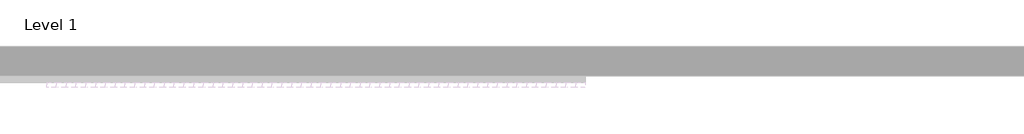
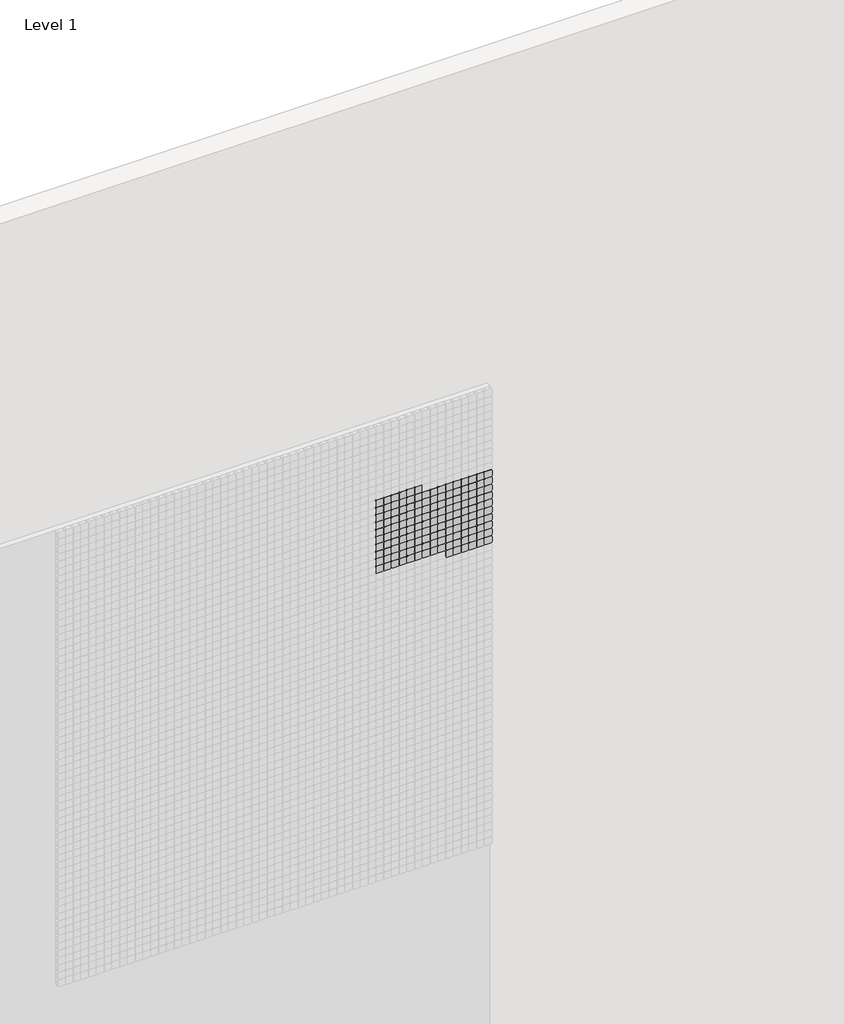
# One storey, part 63 of 71: 147 proxies.
"""IFC4 building model written with IfcOpenShell, lengths in millimetres."""

from ifc_helpers import new_model, si_unit, origin, place, context, project, spatial, transform, mapped, element, save
from components import generic_models_afde289c

model = new_model("IFC4")

# Units and contexts
model_context = context("Model", 3, world=origin())
ifc_project = project(units=[si_unit("LENGTHUNIT", "METRE", prefix="MILLI")], contexts=[model_context])

# Site, building, storey
site = spatial("IfcSite", under=ifc_project)
building = spatial("IfcBuilding", under=site)
storey = spatial("IfcBuildingStorey", under=building, Name="Level 1", Elevation=0.0)

# Proxies
placement = place(None, origin())
generic_models_shape = generic_models_afde289c(model_context)
element("IfcBuildingElementProxy", 1, Name="Pixel_M : Pixel_M", ObjectType="Pixel_M : Pixel_M", at=placement, inside=storey, context=model_context, shape_type="MappedRepresentation", body=[
    mapped(generic_models_shape, transform((9262.4280941, -75.0, 5466.3566215), x_axis=(1.0, 0.0, 0.0), y_axis=(0.0, 0.0, 1.0), z_axis=(0.0, -1.0, 0.0))),
])
element("IfcBuildingElementProxy", 2, Name="Pixel_M : Pixel_M", ObjectType="Pixel_M : Pixel_M", at=placement, inside=storey, context=model_context, shape_type="MappedRepresentation", body=[
    mapped(generic_models_shape, transform((9212.4280941, -75.0, 5466.3566215), x_axis=(1.0, 0.0, 0.0), y_axis=(0.0, 0.0, 1.0), z_axis=(0.0, -1.0, 0.0))),
])
element("IfcBuildingElementProxy", 3, Name="Pixel_M : Pixel_M", ObjectType="Pixel_M : Pixel_M", at=placement, inside=storey, context=model_context, shape_type="MappedRepresentation", body=[
    mapped(generic_models_shape, transform((9162.4280941, -75.0, 5466.3566215), x_axis=(1.0, 0.0, 0.0), y_axis=(0.0, 0.0, 1.0), z_axis=(0.0, -1.0, 0.0))),
])
element("IfcBuildingElementProxy", 4, Name="Pixel_M : Pixel_M", ObjectType="Pixel_M : Pixel_M", at=placement, inside=storey, context=model_context, shape_type="MappedRepresentation", body=[
    mapped(generic_models_shape, transform((9112.4280941, -75.0, 5466.3566215), x_axis=(1.0, 0.0, 0.0), y_axis=(0.0, 0.0, 1.0), z_axis=(0.0, -1.0, 0.0))),
])
element("IfcBuildingElementProxy", 5, Name="Pixel_M : Pixel_M", ObjectType="Pixel_M : Pixel_M", at=placement, inside=storey, context=model_context, shape_type="MappedRepresentation", body=[
    mapped(generic_models_shape, transform((9062.4280941, -75.0, 5466.3566215), x_axis=(1.0, 0.0, 0.0), y_axis=(0.0, 0.0, 1.0), z_axis=(0.0, -1.0, 0.0))),
])
element("IfcBuildingElementProxy", 6, Name="Pixel_M : Pixel_M", ObjectType="Pixel_M : Pixel_M", at=placement, inside=storey, context=model_context, shape_type="MappedRepresentation", body=[
    mapped(generic_models_shape, transform((9012.4280941, -75.0, 5466.3566215), x_axis=(1.0, 0.0, 0.0), y_axis=(0.0, 0.0, 1.0), z_axis=(0.0, -1.0, 0.0))),
])
element("IfcBuildingElementProxy", 7, Name="Pixel_M : Pixel_M", ObjectType="Pixel_M : Pixel_M", at=placement, inside=storey, context=model_context, shape_type="MappedRepresentation", body=[
    mapped(generic_models_shape, transform((9712.4280941, -75.0, 5416.3566215), x_axis=(1.0, 0.0, 0.0), y_axis=(0.0, 0.0, 1.0), z_axis=(0.0, -1.0, 0.0))),
])
element("IfcBuildingElementProxy", 8, Name="Pixel_M : Pixel_M", ObjectType="Pixel_M : Pixel_M", at=placement, inside=storey, context=model_context, shape_type="MappedRepresentation", body=[
    mapped(generic_models_shape, transform((9662.4280941, -75.0, 5416.3566215), x_axis=(1.0, 0.0, 0.0), y_axis=(0.0, 0.0, 1.0), z_axis=(0.0, -1.0, 0.0))),
])
element("IfcBuildingElementProxy", 9, Name="Pixel_M : Pixel_M", ObjectType="Pixel_M : Pixel_M", at=placement, inside=storey, context=model_context, shape_type="MappedRepresentation", body=[
    mapped(generic_models_shape, transform((9612.4280941, -75.0, 5416.3566215), x_axis=(1.0, 0.0, 0.0), y_axis=(0.0, 0.0, 1.0), z_axis=(0.0, -1.0, 0.0))),
])
element("IfcBuildingElementProxy", 10, Name="Pixel_M : Pixel_M", ObjectType="Pixel_M : Pixel_M", at=placement, inside=storey, context=model_context, shape_type="MappedRepresentation", body=[
    mapped(generic_models_shape, transform((9562.4280941, -75.0, 5416.3566215), x_axis=(1.0, 0.0, 0.0), y_axis=(0.0, 0.0, 1.0), z_axis=(0.0, -1.0, 0.0))),
])
element("IfcBuildingElementProxy", 11, Name="Pixel_M : Pixel_M", ObjectType="Pixel_M : Pixel_M", at=placement, inside=storey, context=model_context, shape_type="MappedRepresentation", body=[
    mapped(generic_models_shape, transform((9512.4280941, -75.0, 5416.3566215), x_axis=(1.0, 0.0, 0.0), y_axis=(0.0, 0.0, 1.0), z_axis=(0.0, -1.0, 0.0))),
])
element("IfcBuildingElementProxy", 12, Name="Pixel_M : Pixel_M", ObjectType="Pixel_M : Pixel_M", at=placement, inside=storey, context=model_context, shape_type="MappedRepresentation", body=[
    mapped(generic_models_shape, transform((9462.4280941, -75.0, 5416.3566215), x_axis=(1.0, 0.0, 0.0), y_axis=(0.0, 0.0, 1.0), z_axis=(0.0, -1.0, 0.0))),
])
element("IfcBuildingElementProxy", 13, Name="Pixel_M : Pixel_M", ObjectType="Pixel_M : Pixel_M", at=placement, inside=storey, context=model_context, shape_type="MappedRepresentation", body=[
    mapped(generic_models_shape, transform((9412.4280941, -75.0, 5416.3566215), x_axis=(1.0, 0.0, 0.0), y_axis=(0.0, 0.0, 1.0), z_axis=(0.0, -1.0, 0.0))),
])
element("IfcBuildingElementProxy", 14, Name="Pixel_M : Pixel_M", ObjectType="Pixel_M : Pixel_M", at=placement, inside=storey, context=model_context, shape_type="MappedRepresentation", body=[
    mapped(generic_models_shape, transform((9362.4280941, -75.0, 5416.3566215), x_axis=(1.0, 0.0, 0.0), y_axis=(0.0, 0.0, 1.0), z_axis=(0.0, -1.0, 0.0))),
])
element("IfcBuildingElementProxy", 15, Name="Pixel_M : Pixel_M", ObjectType="Pixel_M : Pixel_M", at=placement, inside=storey, context=model_context, shape_type="MappedRepresentation", body=[
    mapped(generic_models_shape, transform((9312.4280941, -75.0, 5416.3566215), x_axis=(1.0, 0.0, 0.0), y_axis=(0.0, 0.0, 1.0), z_axis=(0.0, -1.0, 0.0))),
])
element("IfcBuildingElementProxy", 16, Name="Pixel_M : Pixel_M", ObjectType="Pixel_M : Pixel_M", at=placement, inside=storey, context=model_context, shape_type="MappedRepresentation", body=[
    mapped(generic_models_shape, transform((9262.4280941, -75.0, 5416.3566215), x_axis=(1.0, 0.0, 0.0), y_axis=(0.0, 0.0, 1.0), z_axis=(0.0, -1.0, 0.0))),
])
element("IfcBuildingElementProxy", 17, Name="Pixel_M : Pixel_M", ObjectType="Pixel_M : Pixel_M", at=placement, inside=storey, context=model_context, shape_type="MappedRepresentation", body=[
    mapped(generic_models_shape, transform((9212.4280941, -75.0, 5416.3566215), x_axis=(1.0, 0.0, 0.0), y_axis=(0.0, 0.0, 1.0), z_axis=(0.0, -1.0, 0.0))),
])
element("IfcBuildingElementProxy", 18, Name="Pixel_M : Pixel_M", ObjectType="Pixel_M : Pixel_M", at=placement, inside=storey, context=model_context, shape_type="MappedRepresentation", body=[
    mapped(generic_models_shape, transform((9162.4280941, -75.0, 5416.3566215), x_axis=(1.0, 0.0, 0.0), y_axis=(0.0, 0.0, 1.0), z_axis=(0.0, -1.0, 0.0))),
])
element("IfcBuildingElementProxy", 19, Name="Pixel_M : Pixel_M", ObjectType="Pixel_M : Pixel_M", at=placement, inside=storey, context=model_context, shape_type="MappedRepresentation", body=[
    mapped(generic_models_shape, transform((9112.4280941, -75.0, 5416.3566215), x_axis=(1.0, 0.0, 0.0), y_axis=(0.0, 0.0, 1.0), z_axis=(0.0, -1.0, 0.0))),
])
element("IfcBuildingElementProxy", 20, Name="Pixel_M : Pixel_M", ObjectType="Pixel_M : Pixel_M", at=placement, inside=storey, context=model_context, shape_type="MappedRepresentation", body=[
    mapped(generic_models_shape, transform((9062.4280941, -75.0, 5416.3566215), x_axis=(1.0, 0.0, 0.0), y_axis=(0.0, 0.0, 1.0), z_axis=(0.0, -1.0, 0.0))),
])
element("IfcBuildingElementProxy", 21, Name="Pixel_M : Pixel_M", ObjectType="Pixel_M : Pixel_M", at=placement, inside=storey, context=model_context, shape_type="MappedRepresentation", body=[
    mapped(generic_models_shape, transform((9012.4280941, -75.0, 5416.3566215), x_axis=(1.0, 0.0, 0.0), y_axis=(0.0, 0.0, 1.0), z_axis=(0.0, -1.0, 0.0))),
])
element("IfcBuildingElementProxy", 22, Name="Pixel_M : Pixel_M", ObjectType="Pixel_M : Pixel_M", at=placement, inside=storey, context=model_context, shape_type="MappedRepresentation", body=[
    mapped(generic_models_shape, transform((9712.4280941, -75.0, 5366.3566215), x_axis=(1.0, 0.0, 0.0), y_axis=(0.0, 0.0, 1.0), z_axis=(0.0, -1.0, 0.0))),
])
element("IfcBuildingElementProxy", 23, Name="Pixel_M : Pixel_M", ObjectType="Pixel_M : Pixel_M", at=placement, inside=storey, context=model_context, shape_type="MappedRepresentation", body=[
    mapped(generic_models_shape, transform((9662.4280941, -75.0, 5366.3566215), x_axis=(1.0, 0.0, 0.0), y_axis=(0.0, 0.0, 1.0), z_axis=(0.0, -1.0, 0.0))),
])
element("IfcBuildingElementProxy", 24, Name="Pixel_M : Pixel_M", ObjectType="Pixel_M : Pixel_M", at=placement, inside=storey, context=model_context, shape_type="MappedRepresentation", body=[
    mapped(generic_models_shape, transform((9612.4280941, -75.0, 5366.3566215), x_axis=(1.0, 0.0, 0.0), y_axis=(0.0, 0.0, 1.0), z_axis=(0.0, -1.0, 0.0))),
])
element("IfcBuildingElementProxy", 25, Name="Pixel_M : Pixel_M", ObjectType="Pixel_M : Pixel_M", at=placement, inside=storey, context=model_context, shape_type="MappedRepresentation", body=[
    mapped(generic_models_shape, transform((9562.4280941, -75.0, 5366.3566215), x_axis=(1.0, 0.0, 0.0), y_axis=(0.0, 0.0, 1.0), z_axis=(0.0, -1.0, 0.0))),
])
element("IfcBuildingElementProxy", 26, Name="Pixel_M : Pixel_M", ObjectType="Pixel_M : Pixel_M", at=placement, inside=storey, context=model_context, shape_type="MappedRepresentation", body=[
    mapped(generic_models_shape, transform((9512.4280941, -75.0, 5366.3566215), x_axis=(1.0, 0.0, 0.0), y_axis=(0.0, 0.0, 1.0), z_axis=(0.0, -1.0, 0.0))),
])
element("IfcBuildingElementProxy", 27, Name="Pixel_M : Pixel_M", ObjectType="Pixel_M : Pixel_M", at=placement, inside=storey, context=model_context, shape_type="MappedRepresentation", body=[
    mapped(generic_models_shape, transform((9462.4280941, -75.0, 5366.3566215), x_axis=(1.0, 0.0, 0.0), y_axis=(0.0, 0.0, 1.0), z_axis=(0.0, -1.0, 0.0))),
])
element("IfcBuildingElementProxy", 28, Name="Pixel_M : Pixel_M", ObjectType="Pixel_M : Pixel_M", at=placement, inside=storey, context=model_context, shape_type="MappedRepresentation", body=[
    mapped(generic_models_shape, transform((9412.4280941, -75.0, 5366.3566215), x_axis=(1.0, 0.0, 0.0), y_axis=(0.0, 0.0, 1.0), z_axis=(0.0, -1.0, 0.0))),
])
element("IfcBuildingElementProxy", 29, Name="Pixel_M : Pixel_M", ObjectType="Pixel_M : Pixel_M", at=placement, inside=storey, context=model_context, shape_type="MappedRepresentation", body=[
    mapped(generic_models_shape, transform((9362.4280941, -75.0, 5366.3566215), x_axis=(1.0, 0.0, 0.0), y_axis=(0.0, 0.0, 1.0), z_axis=(0.0, -1.0, 0.0))),
])
element("IfcBuildingElementProxy", 30, Name="Pixel_M : Pixel_M", ObjectType="Pixel_M : Pixel_M", at=placement, inside=storey, context=model_context, shape_type="MappedRepresentation", body=[
    mapped(generic_models_shape, transform((9312.4280941, -75.0, 5366.3566215), x_axis=(1.0, 0.0, 0.0), y_axis=(0.0, 0.0, 1.0), z_axis=(0.0, -1.0, 0.0))),
])
element("IfcBuildingElementProxy", 31, Name="Pixel_M : Pixel_M", ObjectType="Pixel_M : Pixel_M", at=placement, inside=storey, context=model_context, shape_type="MappedRepresentation", body=[
    mapped(generic_models_shape, transform((9262.4280941, -75.0, 5366.3566215), x_axis=(1.0, 0.0, 0.0), y_axis=(0.0, 0.0, 1.0), z_axis=(0.0, -1.0, 0.0))),
])
element("IfcBuildingElementProxy", 32, Name="Pixel_M : Pixel_M", ObjectType="Pixel_M : Pixel_M", at=placement, inside=storey, context=model_context, shape_type="MappedRepresentation", body=[
    mapped(generic_models_shape, transform((9212.4280941, -75.0, 5366.3566215), x_axis=(1.0, 0.0, 0.0), y_axis=(0.0, 0.0, 1.0), z_axis=(0.0, -1.0, 0.0))),
])
element("IfcBuildingElementProxy", 33, Name="Pixel_M : Pixel_M", ObjectType="Pixel_M : Pixel_M", at=placement, inside=storey, context=model_context, shape_type="MappedRepresentation", body=[
    mapped(generic_models_shape, transform((9162.4280941, -75.0, 5366.3566215), x_axis=(1.0, 0.0, 0.0), y_axis=(0.0, 0.0, 1.0), z_axis=(0.0, -1.0, 0.0))),
])
element("IfcBuildingElementProxy", 34, Name="Pixel_M : Pixel_M", ObjectType="Pixel_M : Pixel_M", at=placement, inside=storey, context=model_context, shape_type="MappedRepresentation", body=[
    mapped(generic_models_shape, transform((9112.4280941, -75.0, 5366.3566215), x_axis=(1.0, 0.0, 0.0), y_axis=(0.0, 0.0, 1.0), z_axis=(0.0, -1.0, 0.0))),
])
element("IfcBuildingElementProxy", 35, Name="Pixel_M : Pixel_M", ObjectType="Pixel_M : Pixel_M", at=placement, inside=storey, context=model_context, shape_type="MappedRepresentation", body=[
    mapped(generic_models_shape, transform((9062.4280941, -75.0, 5366.3566215), x_axis=(1.0, 0.0, 0.0), y_axis=(0.0, 0.0, 1.0), z_axis=(0.0, -1.0, 0.0))),
])
element("IfcBuildingElementProxy", 36, Name="Pixel_M : Pixel_M", ObjectType="Pixel_M : Pixel_M", at=placement, inside=storey, context=model_context, shape_type="MappedRepresentation", body=[
    mapped(generic_models_shape, transform((9012.4280941, -75.0, 5366.3566215), x_axis=(1.0, 0.0, 0.0), y_axis=(0.0, 0.0, 1.0), z_axis=(0.0, -1.0, 0.0))),
])
element("IfcBuildingElementProxy", 37, Name="Pixel_M : Pixel_M", ObjectType="Pixel_M : Pixel_M", at=placement, inside=storey, context=model_context, shape_type="MappedRepresentation", body=[
    mapped(generic_models_shape, transform((9712.4280941, -75.0, 5316.3566215), x_axis=(1.0, 0.0, 0.0), y_axis=(0.0, 0.0, 1.0), z_axis=(0.0, -1.0, 0.0))),
])
element("IfcBuildingElementProxy", 38, Name="Pixel_M : Pixel_M", ObjectType="Pixel_M : Pixel_M", at=placement, inside=storey, context=model_context, shape_type="MappedRepresentation", body=[
    mapped(generic_models_shape, transform((9662.4280941, -75.0, 5316.3566215), x_axis=(1.0, 0.0, 0.0), y_axis=(0.0, 0.0, 1.0), z_axis=(0.0, -1.0, 0.0))),
])
element("IfcBuildingElementProxy", 39, Name="Pixel_M : Pixel_M", ObjectType="Pixel_M : Pixel_M", at=placement, inside=storey, context=model_context, shape_type="MappedRepresentation", body=[
    mapped(generic_models_shape, transform((9612.4280941, -75.0, 5316.3566215), x_axis=(1.0, 0.0, 0.0), y_axis=(0.0, 0.0, 1.0), z_axis=(0.0, -1.0, 0.0))),
])
element("IfcBuildingElementProxy", 40, Name="Pixel_M : Pixel_M", ObjectType="Pixel_M : Pixel_M", at=placement, inside=storey, context=model_context, shape_type="MappedRepresentation", body=[
    mapped(generic_models_shape, transform((9562.4280941, -75.0, 5316.3566215), x_axis=(1.0, 0.0, 0.0), y_axis=(0.0, 0.0, 1.0), z_axis=(0.0, -1.0, 0.0))),
])
element("IfcBuildingElementProxy", 41, Name="Pixel_M : Pixel_M", ObjectType="Pixel_M : Pixel_M", at=placement, inside=storey, context=model_context, shape_type="MappedRepresentation", body=[
    mapped(generic_models_shape, transform((9512.4280941, -75.0, 5316.3566215), x_axis=(1.0, 0.0, 0.0), y_axis=(0.0, 0.0, 1.0), z_axis=(0.0, -1.0, 0.0))),
])
element("IfcBuildingElementProxy", 42, Name="Pixel_M : Pixel_M", ObjectType="Pixel_M : Pixel_M", at=placement, inside=storey, context=model_context, shape_type="MappedRepresentation", body=[
    mapped(generic_models_shape, transform((9462.4280941, -75.0, 5316.3566215), x_axis=(1.0, 0.0, 0.0), y_axis=(0.0, 0.0, 1.0), z_axis=(0.0, -1.0, 0.0))),
])
element("IfcBuildingElementProxy", 43, Name="Pixel_M : Pixel_M", ObjectType="Pixel_M : Pixel_M", at=placement, inside=storey, context=model_context, shape_type="MappedRepresentation", body=[
    mapped(generic_models_shape, transform((9412.4280941, -75.0, 5316.3566215), x_axis=(1.0, 0.0, 0.0), y_axis=(0.0, 0.0, 1.0), z_axis=(0.0, -1.0, 0.0))),
])
element("IfcBuildingElementProxy", 44, Name="Pixel_M : Pixel_M", ObjectType="Pixel_M : Pixel_M", at=placement, inside=storey, context=model_context, shape_type="MappedRepresentation", body=[
    mapped(generic_models_shape, transform((9362.4280941, -75.0, 5316.3566215), x_axis=(1.0, 0.0, 0.0), y_axis=(0.0, 0.0, 1.0), z_axis=(0.0, -1.0, 0.0))),
])
element("IfcBuildingElementProxy", 45, Name="Pixel_M : Pixel_M", ObjectType="Pixel_M : Pixel_M", at=placement, inside=storey, context=model_context, shape_type="MappedRepresentation", body=[
    mapped(generic_models_shape, transform((9312.4280941, -75.0, 5316.3566215), x_axis=(1.0, 0.0, 0.0), y_axis=(0.0, 0.0, 1.0), z_axis=(0.0, -1.0, 0.0))),
])
element("IfcBuildingElementProxy", 46, Name="Pixel_M : Pixel_M", ObjectType="Pixel_M : Pixel_M", at=placement, inside=storey, context=model_context, shape_type="MappedRepresentation", body=[
    mapped(generic_models_shape, transform((9262.4280941, -75.0, 5316.3566215), x_axis=(1.0, 0.0, 0.0), y_axis=(0.0, 0.0, 1.0), z_axis=(0.0, -1.0, 0.0))),
])
element("IfcBuildingElementProxy", 47, Name="Pixel_M : Pixel_M", ObjectType="Pixel_M : Pixel_M", at=placement, inside=storey, context=model_context, shape_type="MappedRepresentation", body=[
    mapped(generic_models_shape, transform((9212.4280941, -75.0, 5316.3566215), x_axis=(1.0, 0.0, 0.0), y_axis=(0.0, 0.0, 1.0), z_axis=(0.0, -1.0, 0.0))),
])
element("IfcBuildingElementProxy", 48, Name="Pixel_M : Pixel_M", ObjectType="Pixel_M : Pixel_M", at=placement, inside=storey, context=model_context, shape_type="MappedRepresentation", body=[
    mapped(generic_models_shape, transform((9162.4280941, -75.0, 5316.3566215), x_axis=(1.0, 0.0, 0.0), y_axis=(0.0, 0.0, 1.0), z_axis=(0.0, -1.0, 0.0))),
])
element("IfcBuildingElementProxy", 49, Name="Pixel_M : Pixel_M", ObjectType="Pixel_M : Pixel_M", at=placement, inside=storey, context=model_context, shape_type="MappedRepresentation", body=[
    mapped(generic_models_shape, transform((9112.4280941, -75.0, 5316.3566215), x_axis=(1.0, 0.0, 0.0), y_axis=(0.0, 0.0, 1.0), z_axis=(0.0, -1.0, 0.0))),
])
element("IfcBuildingElementProxy", 50, Name="Pixel_M : Pixel_M", ObjectType="Pixel_M : Pixel_M", at=placement, inside=storey, context=model_context, shape_type="MappedRepresentation", body=[
    mapped(generic_models_shape, transform((9062.4280941, -75.0, 5316.3566215), x_axis=(1.0, 0.0, 0.0), y_axis=(0.0, 0.0, 1.0), z_axis=(0.0, -1.0, 0.0))),
])
element("IfcBuildingElementProxy", 51, Name="Pixel_M : Pixel_M", ObjectType="Pixel_M : Pixel_M", at=placement, inside=storey, context=model_context, shape_type="MappedRepresentation", body=[
    mapped(generic_models_shape, transform((9012.4280941, -75.0, 5316.3566215), x_axis=(1.0, 0.0, 0.0), y_axis=(0.0, 0.0, 1.0), z_axis=(0.0, -1.0, 0.0))),
])
element("IfcBuildingElementProxy", 52, Name="Pixel_M : Pixel_M", ObjectType="Pixel_M : Pixel_M", at=placement, inside=storey, context=model_context, shape_type="MappedRepresentation", body=[
    mapped(generic_models_shape, transform((9712.4280941, -75.0, 5266.3566215), x_axis=(1.0, 0.0, 0.0), y_axis=(0.0, 0.0, 1.0), z_axis=(0.0, -1.0, 0.0))),
])
element("IfcBuildingElementProxy", 53, Name="Pixel_M : Pixel_M", ObjectType="Pixel_M : Pixel_M", at=placement, inside=storey, context=model_context, shape_type="MappedRepresentation", body=[
    mapped(generic_models_shape, transform((9662.4280941, -75.0, 5266.3566215), x_axis=(1.0, 0.0, 0.0), y_axis=(0.0, 0.0, 1.0), z_axis=(0.0, -1.0, 0.0))),
])
element("IfcBuildingElementProxy", 54, Name="Pixel_M : Pixel_M", ObjectType="Pixel_M : Pixel_M", at=placement, inside=storey, context=model_context, shape_type="MappedRepresentation", body=[
    mapped(generic_models_shape, transform((9612.4280941, -75.0, 5266.3566215), x_axis=(1.0, 0.0, 0.0), y_axis=(0.0, 0.0, 1.0), z_axis=(0.0, -1.0, 0.0))),
])
element("IfcBuildingElementProxy", 55, Name="Pixel_M : Pixel_M", ObjectType="Pixel_M : Pixel_M", at=placement, inside=storey, context=model_context, shape_type="MappedRepresentation", body=[
    mapped(generic_models_shape, transform((9562.4280941, -75.0, 5266.3566215), x_axis=(1.0, 0.0, 0.0), y_axis=(0.0, 0.0, 1.0), z_axis=(0.0, -1.0, 0.0))),
])
element("IfcBuildingElementProxy", 56, Name="Pixel_M : Pixel_M", ObjectType="Pixel_M : Pixel_M", at=placement, inside=storey, context=model_context, shape_type="MappedRepresentation", body=[
    mapped(generic_models_shape, transform((9512.4280941, -75.0, 5266.3566215), x_axis=(1.0, 0.0, 0.0), y_axis=(0.0, 0.0, 1.0), z_axis=(0.0, -1.0, 0.0))),
])
element("IfcBuildingElementProxy", 57, Name="Pixel_M : Pixel_M", ObjectType="Pixel_M : Pixel_M", at=placement, inside=storey, context=model_context, shape_type="MappedRepresentation", body=[
    mapped(generic_models_shape, transform((9462.4280941, -75.0, 5266.3566215), x_axis=(1.0, 0.0, 0.0), y_axis=(0.0, 0.0, 1.0), z_axis=(0.0, -1.0, 0.0))),
])
element("IfcBuildingElementProxy", 58, Name="Pixel_M : Pixel_M", ObjectType="Pixel_M : Pixel_M", at=placement, inside=storey, context=model_context, shape_type="MappedRepresentation", body=[
    mapped(generic_models_shape, transform((9412.4280941, -75.0, 5266.3566215), x_axis=(1.0, 0.0, 0.0), y_axis=(0.0, 0.0, 1.0), z_axis=(0.0, -1.0, 0.0))),
])
element("IfcBuildingElementProxy", 59, Name="Pixel_M : Pixel_M", ObjectType="Pixel_M : Pixel_M", at=placement, inside=storey, context=model_context, shape_type="MappedRepresentation", body=[
    mapped(generic_models_shape, transform((9362.4280941, -75.0, 5266.3566215), x_axis=(1.0, 0.0, 0.0), y_axis=(0.0, 0.0, 1.0), z_axis=(0.0, -1.0, 0.0))),
])
element("IfcBuildingElementProxy", 60, Name="Pixel_M : Pixel_M", ObjectType="Pixel_M : Pixel_M", at=placement, inside=storey, context=model_context, shape_type="MappedRepresentation", body=[
    mapped(generic_models_shape, transform((9312.4280941, -75.0, 5266.3566215), x_axis=(1.0, 0.0, 0.0), y_axis=(0.0, 0.0, 1.0), z_axis=(0.0, -1.0, 0.0))),
])
element("IfcBuildingElementProxy", 61, Name="Pixel_M : Pixel_M", ObjectType="Pixel_M : Pixel_M", at=placement, inside=storey, context=model_context, shape_type="MappedRepresentation", body=[
    mapped(generic_models_shape, transform((9262.4280941, -75.0, 5266.3566215), x_axis=(1.0, 0.0, 0.0), y_axis=(0.0, 0.0, 1.0), z_axis=(0.0, -1.0, 0.0))),
])
element("IfcBuildingElementProxy", 62, Name="Pixel_M : Pixel_M", ObjectType="Pixel_M : Pixel_M", at=placement, inside=storey, context=model_context, shape_type="MappedRepresentation", body=[
    mapped(generic_models_shape, transform((9212.4280941, -75.0, 5266.3566215), x_axis=(1.0, 0.0, 0.0), y_axis=(0.0, 0.0, 1.0), z_axis=(0.0, -1.0, 0.0))),
])
element("IfcBuildingElementProxy", 63, Name="Pixel_M : Pixel_M", ObjectType="Pixel_M : Pixel_M", at=placement, inside=storey, context=model_context, shape_type="MappedRepresentation", body=[
    mapped(generic_models_shape, transform((9162.4280941, -75.0, 5266.3566215), x_axis=(1.0, 0.0, 0.0), y_axis=(0.0, 0.0, 1.0), z_axis=(0.0, -1.0, 0.0))),
])
element("IfcBuildingElementProxy", 64, Name="Pixel_M : Pixel_M", ObjectType="Pixel_M : Pixel_M", at=placement, inside=storey, context=model_context, shape_type="MappedRepresentation", body=[
    mapped(generic_models_shape, transform((9112.4280941, -75.0, 5266.3566215), x_axis=(1.0, 0.0, 0.0), y_axis=(0.0, 0.0, 1.0), z_axis=(0.0, -1.0, 0.0))),
])
element("IfcBuildingElementProxy", 65, Name="Pixel_M : Pixel_M", ObjectType="Pixel_M : Pixel_M", at=placement, inside=storey, context=model_context, shape_type="MappedRepresentation", body=[
    mapped(generic_models_shape, transform((9062.4280941, -75.0, 5266.3566215), x_axis=(1.0, 0.0, 0.0), y_axis=(0.0, 0.0, 1.0), z_axis=(0.0, -1.0, 0.0))),
])
element("IfcBuildingElementProxy", 66, Name="Pixel_M : Pixel_M", ObjectType="Pixel_M : Pixel_M", at=placement, inside=storey, context=model_context, shape_type="MappedRepresentation", body=[
    mapped(generic_models_shape, transform((9012.4280941, -75.0, 5266.3566215), x_axis=(1.0, 0.0, 0.0), y_axis=(0.0, 0.0, 1.0), z_axis=(0.0, -1.0, 0.0))),
])
element("IfcBuildingElementProxy", 67, Name="Pixel_M : Pixel_M", ObjectType="Pixel_M : Pixel_M", at=placement, inside=storey, context=model_context, shape_type="MappedRepresentation", body=[
    mapped(generic_models_shape, transform((9712.4280941, -75.0, 5216.3566215), x_axis=(1.0, 0.0, 0.0), y_axis=(0.0, 0.0, 1.0), z_axis=(0.0, -1.0, 0.0))),
])
element("IfcBuildingElementProxy", 68, Name="Pixel_M : Pixel_M", ObjectType="Pixel_M : Pixel_M", at=placement, inside=storey, context=model_context, shape_type="MappedRepresentation", body=[
    mapped(generic_models_shape, transform((9662.4280941, -75.0, 5216.3566215), x_axis=(1.0, 0.0, 0.0), y_axis=(0.0, 0.0, 1.0), z_axis=(0.0, -1.0, 0.0))),
])
element("IfcBuildingElementProxy", 69, Name="Pixel_M : Pixel_M", ObjectType="Pixel_M : Pixel_M", at=placement, inside=storey, context=model_context, shape_type="MappedRepresentation", body=[
    mapped(generic_models_shape, transform((9612.4280941, -75.0, 5216.3566215), x_axis=(1.0, 0.0, 0.0), y_axis=(0.0, 0.0, 1.0), z_axis=(0.0, -1.0, 0.0))),
])
element("IfcBuildingElementProxy", 70, Name="Pixel_M : Pixel_M", ObjectType="Pixel_M : Pixel_M", at=placement, inside=storey, context=model_context, shape_type="MappedRepresentation", body=[
    mapped(generic_models_shape, transform((9562.4280941, -75.0, 5216.3566215), x_axis=(1.0, 0.0, 0.0), y_axis=(0.0, 0.0, 1.0), z_axis=(0.0, -1.0, 0.0))),
])
element("IfcBuildingElementProxy", 71, Name="Pixel_M : Pixel_M", ObjectType="Pixel_M : Pixel_M", at=placement, inside=storey, context=model_context, shape_type="MappedRepresentation", body=[
    mapped(generic_models_shape, transform((9512.4280941, -75.0, 5216.3566215), x_axis=(1.0, 0.0, 0.0), y_axis=(0.0, 0.0, 1.0), z_axis=(0.0, -1.0, 0.0))),
])
element("IfcBuildingElementProxy", 72, Name="Pixel_M : Pixel_M", ObjectType="Pixel_M : Pixel_M", at=placement, inside=storey, context=model_context, shape_type="MappedRepresentation", body=[
    mapped(generic_models_shape, transform((9462.4280941, -75.0, 5216.3566215), x_axis=(1.0, 0.0, 0.0), y_axis=(0.0, 0.0, 1.0), z_axis=(0.0, -1.0, 0.0))),
])
element("IfcBuildingElementProxy", 73, Name="Pixel_M : Pixel_M", ObjectType="Pixel_M : Pixel_M", at=placement, inside=storey, context=model_context, shape_type="MappedRepresentation", body=[
    mapped(generic_models_shape, transform((9412.4280941, -75.0, 5216.3566215), x_axis=(1.0, 0.0, 0.0), y_axis=(0.0, 0.0, 1.0), z_axis=(0.0, -1.0, 0.0))),
])
element("IfcBuildingElementProxy", 74, Name="Pixel_M : Pixel_M", ObjectType="Pixel_M : Pixel_M", at=placement, inside=storey, context=model_context, shape_type="MappedRepresentation", body=[
    mapped(generic_models_shape, transform((9362.4280941, -75.0, 5216.3566215), x_axis=(1.0, 0.0, 0.0), y_axis=(0.0, 0.0, 1.0), z_axis=(0.0, -1.0, 0.0))),
])
element("IfcBuildingElementProxy", 75, Name="Pixel_M : Pixel_M", ObjectType="Pixel_M : Pixel_M", at=placement, inside=storey, context=model_context, shape_type="MappedRepresentation", body=[
    mapped(generic_models_shape, transform((9312.4280941, -75.0, 5216.3566215), x_axis=(1.0, 0.0, 0.0), y_axis=(0.0, 0.0, 1.0), z_axis=(0.0, -1.0, 0.0))),
])
element("IfcBuildingElementProxy", 76, Name="Pixel_M : Pixel_M", ObjectType="Pixel_M : Pixel_M", at=placement, inside=storey, context=model_context, shape_type="MappedRepresentation", body=[
    mapped(generic_models_shape, transform((9262.4280941, -75.0, 5216.3566215), x_axis=(1.0, 0.0, 0.0), y_axis=(0.0, 0.0, 1.0), z_axis=(0.0, -1.0, 0.0))),
])
element("IfcBuildingElementProxy", 77, Name="Pixel_M : Pixel_M", ObjectType="Pixel_M : Pixel_M", at=placement, inside=storey, context=model_context, shape_type="MappedRepresentation", body=[
    mapped(generic_models_shape, transform((9212.4280941, -75.0, 5216.3566215), x_axis=(1.0, 0.0, 0.0), y_axis=(0.0, 0.0, 1.0), z_axis=(0.0, -1.0, 0.0))),
])
element("IfcBuildingElementProxy", 78, Name="Pixel_M : Pixel_M", ObjectType="Pixel_M : Pixel_M", at=placement, inside=storey, context=model_context, shape_type="MappedRepresentation", body=[
    mapped(generic_models_shape, transform((9162.4280941, -75.0, 5216.3566215), x_axis=(1.0, 0.0, 0.0), y_axis=(0.0, 0.0, 1.0), z_axis=(0.0, -1.0, 0.0))),
])
element("IfcBuildingElementProxy", 79, Name="Pixel_M : Pixel_M", ObjectType="Pixel_M : Pixel_M", at=placement, inside=storey, context=model_context, shape_type="MappedRepresentation", body=[
    mapped(generic_models_shape, transform((9112.4280941, -75.0, 5216.3566215), x_axis=(1.0, 0.0, 0.0), y_axis=(0.0, 0.0, 1.0), z_axis=(0.0, -1.0, 0.0))),
])
element("IfcBuildingElementProxy", 80, Name="Pixel_M : Pixel_M", ObjectType="Pixel_M : Pixel_M", at=placement, inside=storey, context=model_context, shape_type="MappedRepresentation", body=[
    mapped(generic_models_shape, transform((9062.4280941, -75.0, 5216.3566215), x_axis=(1.0, 0.0, 0.0), y_axis=(0.0, 0.0, 1.0), z_axis=(0.0, -1.0, 0.0))),
])
element("IfcBuildingElementProxy", 81, Name="Pixel_M : Pixel_M", ObjectType="Pixel_M : Pixel_M", at=placement, inside=storey, context=model_context, shape_type="MappedRepresentation", body=[
    mapped(generic_models_shape, transform((9012.4280941, -75.0, 5216.3566215), x_axis=(1.0, 0.0, 0.0), y_axis=(0.0, 0.0, 1.0), z_axis=(0.0, -1.0, 0.0))),
])
element("IfcBuildingElementProxy", 82, Name="Pixel_M : Pixel_M", ObjectType="Pixel_M : Pixel_M", at=placement, inside=storey, context=model_context, shape_type="MappedRepresentation", body=[
    mapped(generic_models_shape, transform((9712.4280941, -75.0, 5166.3566215), x_axis=(1.0, 0.0, 0.0), y_axis=(0.0, 0.0, 1.0), z_axis=(0.0, -1.0, 0.0))),
])
element("IfcBuildingElementProxy", 83, Name="Pixel_M : Pixel_M", ObjectType="Pixel_M : Pixel_M", at=placement, inside=storey, context=model_context, shape_type="MappedRepresentation", body=[
    mapped(generic_models_shape, transform((9662.4280941, -75.0, 5166.3566215), x_axis=(1.0, 0.0, 0.0), y_axis=(0.0, 0.0, 1.0), z_axis=(0.0, -1.0, 0.0))),
])
element("IfcBuildingElementProxy", 84, Name="Pixel_M : Pixel_M", ObjectType="Pixel_M : Pixel_M", at=placement, inside=storey, context=model_context, shape_type="MappedRepresentation", body=[
    mapped(generic_models_shape, transform((9612.4280941, -75.0, 5166.3566215), x_axis=(1.0, 0.0, 0.0), y_axis=(0.0, 0.0, 1.0), z_axis=(0.0, -1.0, 0.0))),
])
element("IfcBuildingElementProxy", 85, Name="Pixel_M : Pixel_M", ObjectType="Pixel_M : Pixel_M", at=placement, inside=storey, context=model_context, shape_type="MappedRepresentation", body=[
    mapped(generic_models_shape, transform((9562.4280941, -75.0, 5166.3566215), x_axis=(1.0, 0.0, 0.0), y_axis=(0.0, 0.0, 1.0), z_axis=(0.0, -1.0, 0.0))),
])
element("IfcBuildingElementProxy", 86, Name="Pixel_M : Pixel_M", ObjectType="Pixel_M : Pixel_M", at=placement, inside=storey, context=model_context, shape_type="MappedRepresentation", body=[
    mapped(generic_models_shape, transform((9512.4280941, -75.0, 5166.3566215), x_axis=(1.0, 0.0, 0.0), y_axis=(0.0, 0.0, 1.0), z_axis=(0.0, -1.0, 0.0))),
])
element("IfcBuildingElementProxy", 87, Name="Pixel_M : Pixel_M", ObjectType="Pixel_M : Pixel_M", at=placement, inside=storey, context=model_context, shape_type="MappedRepresentation", body=[
    mapped(generic_models_shape, transform((9462.4280941, -75.0, 5166.3566215), x_axis=(1.0, 0.0, 0.0), y_axis=(0.0, 0.0, 1.0), z_axis=(0.0, -1.0, 0.0))),
])
element("IfcBuildingElementProxy", 88, Name="Pixel_M : Pixel_M", ObjectType="Pixel_M : Pixel_M", at=placement, inside=storey, context=model_context, shape_type="MappedRepresentation", body=[
    mapped(generic_models_shape, transform((9412.4280941, -75.0, 5166.3566215), x_axis=(1.0, 0.0, 0.0), y_axis=(0.0, 0.0, 1.0), z_axis=(0.0, -1.0, 0.0))),
])
element("IfcBuildingElementProxy", 89, Name="Pixel_M : Pixel_M", ObjectType="Pixel_M : Pixel_M", at=placement, inside=storey, context=model_context, shape_type="MappedRepresentation", body=[
    mapped(generic_models_shape, transform((9362.4280941, -75.0, 5166.3566215), x_axis=(1.0, 0.0, 0.0), y_axis=(0.0, 0.0, 1.0), z_axis=(0.0, -1.0, 0.0))),
])
element("IfcBuildingElementProxy", 90, Name="Pixel_M : Pixel_M", ObjectType="Pixel_M : Pixel_M", at=placement, inside=storey, context=model_context, shape_type="MappedRepresentation", body=[
    mapped(generic_models_shape, transform((9312.4280941, -75.0, 5166.3566215), x_axis=(1.0, 0.0, 0.0), y_axis=(0.0, 0.0, 1.0), z_axis=(0.0, -1.0, 0.0))),
])
element("IfcBuildingElementProxy", 91, Name="Pixel_M : Pixel_M", ObjectType="Pixel_M : Pixel_M", at=placement, inside=storey, context=model_context, shape_type="MappedRepresentation", body=[
    mapped(generic_models_shape, transform((9262.4280941, -75.0, 5166.3566215), x_axis=(1.0, 0.0, 0.0), y_axis=(0.0, 0.0, 1.0), z_axis=(0.0, -1.0, 0.0))),
])
element("IfcBuildingElementProxy", 92, Name="Pixel_M : Pixel_M", ObjectType="Pixel_M : Pixel_M", at=placement, inside=storey, context=model_context, shape_type="MappedRepresentation", body=[
    mapped(generic_models_shape, transform((9212.4280941, -75.0, 5166.3566215), x_axis=(1.0, 0.0, 0.0), y_axis=(0.0, 0.0, 1.0), z_axis=(0.0, -1.0, 0.0))),
])
element("IfcBuildingElementProxy", 93, Name="Pixel_M : Pixel_M", ObjectType="Pixel_M : Pixel_M", at=placement, inside=storey, context=model_context, shape_type="MappedRepresentation", body=[
    mapped(generic_models_shape, transform((9162.4280941, -75.0, 5166.3566215), x_axis=(1.0, 0.0, 0.0), y_axis=(0.0, 0.0, 1.0), z_axis=(0.0, -1.0, 0.0))),
])
element("IfcBuildingElementProxy", 94, Name="Pixel_M : Pixel_M", ObjectType="Pixel_M : Pixel_M", at=placement, inside=storey, context=model_context, shape_type="MappedRepresentation", body=[
    mapped(generic_models_shape, transform((9112.4280941, -75.0, 5166.3566215), x_axis=(1.0, 0.0, 0.0), y_axis=(0.0, 0.0, 1.0), z_axis=(0.0, -1.0, 0.0))),
])
element("IfcBuildingElementProxy", 95, Name="Pixel_M : Pixel_M", ObjectType="Pixel_M : Pixel_M", at=placement, inside=storey, context=model_context, shape_type="MappedRepresentation", body=[
    mapped(generic_models_shape, transform((9062.4280941, -75.0, 5166.3566215), x_axis=(1.0, 0.0, 0.0), y_axis=(0.0, 0.0, 1.0), z_axis=(0.0, -1.0, 0.0))),
])
element("IfcBuildingElementProxy", 96, Name="Pixel_M : Pixel_M", ObjectType="Pixel_M : Pixel_M", at=placement, inside=storey, context=model_context, shape_type="MappedRepresentation", body=[
    mapped(generic_models_shape, transform((9012.4280941, -75.0, 5166.3566215), x_axis=(1.0, 0.0, 0.0), y_axis=(0.0, 0.0, 1.0), z_axis=(0.0, -1.0, 0.0))),
])
element("IfcBuildingElementProxy", 97, Name="Pixel_M : Pixel_M", ObjectType="Pixel_M : Pixel_M", at=placement, inside=storey, context=model_context, shape_type="MappedRepresentation", body=[
    mapped(generic_models_shape, transform((9712.4280941, -75.0, 5116.3566215), x_axis=(1.0, 0.0, 0.0), y_axis=(0.0, 0.0, 1.0), z_axis=(0.0, -1.0, 0.0))),
])
element("IfcBuildingElementProxy", 98, Name="Pixel_M : Pixel_M", ObjectType="Pixel_M : Pixel_M", at=placement, inside=storey, context=model_context, shape_type="MappedRepresentation", body=[
    mapped(generic_models_shape, transform((9662.4280941, -75.0, 5116.3566215), x_axis=(1.0, 0.0, 0.0), y_axis=(0.0, 0.0, 1.0), z_axis=(0.0, -1.0, 0.0))),
])
element("IfcBuildingElementProxy", 99, Name="Pixel_M : Pixel_M", ObjectType="Pixel_M : Pixel_M", at=placement, inside=storey, context=model_context, shape_type="MappedRepresentation", body=[
    mapped(generic_models_shape, transform((9612.4280941, -75.0, 5116.3566215), x_axis=(1.0, 0.0, 0.0), y_axis=(0.0, 0.0, 1.0), z_axis=(0.0, -1.0, 0.0))),
])
element("IfcBuildingElementProxy", 100, Name="Pixel_M : Pixel_M", ObjectType="Pixel_M : Pixel_M", at=placement, inside=storey, context=model_context, shape_type="MappedRepresentation", body=[
    mapped(generic_models_shape, transform((9562.4280941, -75.0, 5116.3566215), x_axis=(1.0, 0.0, 0.0), y_axis=(0.0, 0.0, 1.0), z_axis=(0.0, -1.0, 0.0))),
])
element("IfcBuildingElementProxy", 101, Name="Pixel_M : Pixel_M", ObjectType="Pixel_M : Pixel_M", at=placement, inside=storey, context=model_context, shape_type="MappedRepresentation", body=[
    mapped(generic_models_shape, transform((9512.4280941, -75.0, 5116.3566215), x_axis=(1.0, 0.0, 0.0), y_axis=(0.0, 0.0, 1.0), z_axis=(0.0, -1.0, 0.0))),
])
element("IfcBuildingElementProxy", 102, Name="Pixel_M : Pixel_M", ObjectType="Pixel_M : Pixel_M", at=placement, inside=storey, context=model_context, shape_type="MappedRepresentation", body=[
    mapped(generic_models_shape, transform((9462.4280941, -75.0, 5116.3566215), x_axis=(1.0, 0.0, 0.0), y_axis=(0.0, 0.0, 1.0), z_axis=(0.0, -1.0, 0.0))),
])
element("IfcBuildingElementProxy", 103, Name="Pixel_M : Pixel_M", ObjectType="Pixel_M : Pixel_M", at=placement, inside=storey, context=model_context, shape_type="MappedRepresentation", body=[
    mapped(generic_models_shape, transform((9412.4280941, -75.0, 5116.3566215), x_axis=(1.0, 0.0, 0.0), y_axis=(0.0, 0.0, 1.0), z_axis=(0.0, -1.0, 0.0))),
])
element("IfcBuildingElementProxy", 104, Name="Pixel_M : Pixel_M", ObjectType="Pixel_M : Pixel_M", at=placement, inside=storey, context=model_context, shape_type="MappedRepresentation", body=[
    mapped(generic_models_shape, transform((9362.4280941, -75.0, 5116.3566215), x_axis=(1.0, 0.0, 0.0), y_axis=(0.0, 0.0, 1.0), z_axis=(0.0, -1.0, 0.0))),
])
element("IfcBuildingElementProxy", 105, Name="Pixel_M : Pixel_M", ObjectType="Pixel_M : Pixel_M", at=placement, inside=storey, context=model_context, shape_type="MappedRepresentation", body=[
    mapped(generic_models_shape, transform((9312.4280941, -75.0, 5116.3566215), x_axis=(1.0, 0.0, 0.0), y_axis=(0.0, 0.0, 1.0), z_axis=(0.0, -1.0, 0.0))),
])
element("IfcBuildingElementProxy", 106, Name="Pixel_M : Pixel_M", ObjectType="Pixel_M : Pixel_M", at=placement, inside=storey, context=model_context, shape_type="MappedRepresentation", body=[
    mapped(generic_models_shape, transform((9262.4280941, -75.0, 5116.3566215), x_axis=(1.0, 0.0, 0.0), y_axis=(0.0, 0.0, 1.0), z_axis=(0.0, -1.0, 0.0))),
])
element("IfcBuildingElementProxy", 107, Name="Pixel_M : Pixel_M", ObjectType="Pixel_M : Pixel_M", at=placement, inside=storey, context=model_context, shape_type="MappedRepresentation", body=[
    mapped(generic_models_shape, transform((9212.4280941, -75.0, 5116.3566215), x_axis=(1.0, 0.0, 0.0), y_axis=(0.0, 0.0, 1.0), z_axis=(0.0, -1.0, 0.0))),
])
element("IfcBuildingElementProxy", 108, Name="Pixel_M : Pixel_M", ObjectType="Pixel_M : Pixel_M", at=placement, inside=storey, context=model_context, shape_type="MappedRepresentation", body=[
    mapped(generic_models_shape, transform((9162.4280941, -75.0, 5116.3566215), x_axis=(1.0, 0.0, 0.0), y_axis=(0.0, 0.0, 1.0), z_axis=(0.0, -1.0, 0.0))),
])
element("IfcBuildingElementProxy", 109, Name="Pixel_M : Pixel_M", ObjectType="Pixel_M : Pixel_M", at=placement, inside=storey, context=model_context, shape_type="MappedRepresentation", body=[
    mapped(generic_models_shape, transform((9112.4280941, -75.0, 5116.3566215), x_axis=(1.0, 0.0, 0.0), y_axis=(0.0, 0.0, 1.0), z_axis=(0.0, -1.0, 0.0))),
])
element("IfcBuildingElementProxy", 110, Name="Pixel_M : Pixel_M", ObjectType="Pixel_M : Pixel_M", at=placement, inside=storey, context=model_context, shape_type="MappedRepresentation", body=[
    mapped(generic_models_shape, transform((9062.4280941, -75.0, 5116.3566215), x_axis=(1.0, 0.0, 0.0), y_axis=(0.0, 0.0, 1.0), z_axis=(0.0, -1.0, 0.0))),
])
element("IfcBuildingElementProxy", 111, Name="Pixel_M : Pixel_M", ObjectType="Pixel_M : Pixel_M", at=placement, inside=storey, context=model_context, shape_type="MappedRepresentation", body=[
    mapped(generic_models_shape, transform((9012.4280941, -75.0, 5116.3566215), x_axis=(1.0, 0.0, 0.0), y_axis=(0.0, 0.0, 1.0), z_axis=(0.0, -1.0, 0.0))),
])
element("IfcBuildingElementProxy", 112, Name="Pixel_M : Pixel_M", ObjectType="Pixel_M : Pixel_M", at=placement, inside=storey, context=model_context, shape_type="MappedRepresentation", body=[
    mapped(generic_models_shape, transform((9712.4280941, -75.0, 5066.3566215), x_axis=(1.0, 0.0, 0.0), y_axis=(0.0, 0.0, 1.0), z_axis=(0.0, -1.0, 0.0))),
])
element("IfcBuildingElementProxy", 113, Name="Pixel_M : Pixel_M", ObjectType="Pixel_M : Pixel_M", at=placement, inside=storey, context=model_context, shape_type="MappedRepresentation", body=[
    mapped(generic_models_shape, transform((9662.4280941, -75.0, 5066.3566215), x_axis=(1.0, 0.0, 0.0), y_axis=(0.0, 0.0, 1.0), z_axis=(0.0, -1.0, 0.0))),
])
element("IfcBuildingElementProxy", 114, Name="Pixel_M : Pixel_M", ObjectType="Pixel_M : Pixel_M", at=placement, inside=storey, context=model_context, shape_type="MappedRepresentation", body=[
    mapped(generic_models_shape, transform((9612.4280941, -75.0, 5066.3566215), x_axis=(1.0, 0.0, 0.0), y_axis=(0.0, 0.0, 1.0), z_axis=(0.0, -1.0, 0.0))),
])
element("IfcBuildingElementProxy", 115, Name="Pixel_M : Pixel_M", ObjectType="Pixel_M : Pixel_M", at=placement, inside=storey, context=model_context, shape_type="MappedRepresentation", body=[
    mapped(generic_models_shape, transform((9562.4280941, -75.0, 5066.3566215), x_axis=(1.0, 0.0, 0.0), y_axis=(0.0, 0.0, 1.0), z_axis=(0.0, -1.0, 0.0))),
])
element("IfcBuildingElementProxy", 116, Name="Pixel_M : Pixel_M", ObjectType="Pixel_M : Pixel_M", at=placement, inside=storey, context=model_context, shape_type="MappedRepresentation", body=[
    mapped(generic_models_shape, transform((9512.4280941, -75.0, 5066.3566215), x_axis=(1.0, 0.0, 0.0), y_axis=(0.0, 0.0, 1.0), z_axis=(0.0, -1.0, 0.0))),
])
element("IfcBuildingElementProxy", 117, Name="Pixel_M : Pixel_M", ObjectType="Pixel_M : Pixel_M", at=placement, inside=storey, context=model_context, shape_type="MappedRepresentation", body=[
    mapped(generic_models_shape, transform((9462.4280941, -75.0, 5066.3566215), x_axis=(1.0, 0.0, 0.0), y_axis=(0.0, 0.0, 1.0), z_axis=(0.0, -1.0, 0.0))),
])
element("IfcBuildingElementProxy", 118, Name="Pixel_M : Pixel_M", ObjectType="Pixel_M : Pixel_M", at=placement, inside=storey, context=model_context, shape_type="MappedRepresentation", body=[
    mapped(generic_models_shape, transform((9412.4280941, -75.0, 5066.3566215), x_axis=(1.0, 0.0, 0.0), y_axis=(0.0, 0.0, 1.0), z_axis=(0.0, -1.0, 0.0))),
])
element("IfcBuildingElementProxy", 119, Name="Pixel_M : Pixel_M", ObjectType="Pixel_M : Pixel_M", at=placement, inside=storey, context=model_context, shape_type="MappedRepresentation", body=[
    mapped(generic_models_shape, transform((9362.4280941, -75.0, 5066.3566215), x_axis=(1.0, 0.0, 0.0), y_axis=(0.0, 0.0, 1.0), z_axis=(0.0, -1.0, 0.0))),
])
element("IfcBuildingElementProxy", 120, Name="Pixel_M : Pixel_M", ObjectType="Pixel_M : Pixel_M", at=placement, inside=storey, context=model_context, shape_type="MappedRepresentation", body=[
    mapped(generic_models_shape, transform((9312.4280941, -75.0, 5066.3566215), x_axis=(1.0, 0.0, 0.0), y_axis=(0.0, 0.0, 1.0), z_axis=(0.0, -1.0, 0.0))),
])
element("IfcBuildingElementProxy", 121, Name="Pixel_M : Pixel_M", ObjectType="Pixel_M : Pixel_M", at=placement, inside=storey, context=model_context, shape_type="MappedRepresentation", body=[
    mapped(generic_models_shape, transform((9262.4280941, -75.0, 5066.3566215), x_axis=(1.0, 0.0, 0.0), y_axis=(0.0, 0.0, 1.0), z_axis=(0.0, -1.0, 0.0))),
])
element("IfcBuildingElementProxy", 122, Name="Pixel_M : Pixel_M", ObjectType="Pixel_M : Pixel_M", at=placement, inside=storey, context=model_context, shape_type="MappedRepresentation", body=[
    mapped(generic_models_shape, transform((9212.4280941, -75.0, 5066.3566215), x_axis=(1.0, 0.0, 0.0), y_axis=(0.0, 0.0, 1.0), z_axis=(0.0, -1.0, 0.0))),
])
element("IfcBuildingElementProxy", 123, Name="Pixel_M : Pixel_M", ObjectType="Pixel_M : Pixel_M", at=placement, inside=storey, context=model_context, shape_type="MappedRepresentation", body=[
    mapped(generic_models_shape, transform((9162.4280941, -75.0, 5066.3566215), x_axis=(1.0, 0.0, 0.0), y_axis=(0.0, 0.0, 1.0), z_axis=(0.0, -1.0, 0.0))),
])
element("IfcBuildingElementProxy", 124, Name="Pixel_M : Pixel_M", ObjectType="Pixel_M : Pixel_M", at=placement, inside=storey, context=model_context, shape_type="MappedRepresentation", body=[
    mapped(generic_models_shape, transform((9112.4280941, -75.0, 5066.3566215), x_axis=(1.0, 0.0, 0.0), y_axis=(0.0, 0.0, 1.0), z_axis=(0.0, -1.0, 0.0))),
])
element("IfcBuildingElementProxy", 125, Name="Pixel_M : Pixel_M", ObjectType="Pixel_M : Pixel_M", at=placement, inside=storey, context=model_context, shape_type="MappedRepresentation", body=[
    mapped(generic_models_shape, transform((9062.4280941, -75.0, 5066.3566215), x_axis=(1.0, 0.0, 0.0), y_axis=(0.0, 0.0, 1.0), z_axis=(0.0, -1.0, 0.0))),
])
element("IfcBuildingElementProxy", 126, Name="Pixel_M : Pixel_M", ObjectType="Pixel_M : Pixel_M", at=placement, inside=storey, context=model_context, shape_type="MappedRepresentation", body=[
    mapped(generic_models_shape, transform((9012.4280941, -75.0, 5066.3566215), x_axis=(1.0, 0.0, 0.0), y_axis=(0.0, 0.0, 1.0), z_axis=(0.0, -1.0, 0.0))),
])
element("IfcBuildingElementProxy", 127, Name="Pixel_M : Pixel_M", ObjectType="Pixel_M : Pixel_M", at=placement, inside=storey, context=model_context, shape_type="MappedRepresentation", body=[
    mapped(generic_models_shape, transform((9712.4280941, -75.0, 5016.3566215), x_axis=(1.0, 0.0, 0.0), y_axis=(0.0, 0.0, 1.0), z_axis=(0.0, -1.0, 0.0))),
])
element("IfcBuildingElementProxy", 128, Name="Pixel_M : Pixel_M", ObjectType="Pixel_M : Pixel_M", at=placement, inside=storey, context=model_context, shape_type="MappedRepresentation", body=[
    mapped(generic_models_shape, transform((9662.4280941, -75.0, 5016.3566215), x_axis=(1.0, 0.0, 0.0), y_axis=(0.0, 0.0, 1.0), z_axis=(0.0, -1.0, 0.0))),
])
element("IfcBuildingElementProxy", 129, Name="Pixel_M : Pixel_M", ObjectType="Pixel_M : Pixel_M", at=placement, inside=storey, context=model_context, shape_type="MappedRepresentation", body=[
    mapped(generic_models_shape, transform((9612.4280941, -75.0, 5016.3566215), x_axis=(1.0, 0.0, 0.0), y_axis=(0.0, 0.0, 1.0), z_axis=(0.0, -1.0, 0.0))),
])
element("IfcBuildingElementProxy", 130, Name="Pixel_M : Pixel_M", ObjectType="Pixel_M : Pixel_M", at=placement, inside=storey, context=model_context, shape_type="MappedRepresentation", body=[
    mapped(generic_models_shape, transform((9562.4280941, -75.0, 5016.3566215), x_axis=(1.0, 0.0, 0.0), y_axis=(0.0, 0.0, 1.0), z_axis=(0.0, -1.0, 0.0))),
])
element("IfcBuildingElementProxy", 131, Name="Pixel_M : Pixel_M", ObjectType="Pixel_M : Pixel_M", at=placement, inside=storey, context=model_context, shape_type="MappedRepresentation", body=[
    mapped(generic_models_shape, transform((9512.4280941, -75.0, 5016.3566215), x_axis=(1.0, 0.0, 0.0), y_axis=(0.0, 0.0, 1.0), z_axis=(0.0, -1.0, 0.0))),
])
element("IfcBuildingElementProxy", 132, Name="Pixel_M : Pixel_M", ObjectType="Pixel_M : Pixel_M", at=placement, inside=storey, context=model_context, shape_type="MappedRepresentation", body=[
    mapped(generic_models_shape, transform((9462.4280941, -75.0, 5016.3566215), x_axis=(1.0, 0.0, 0.0), y_axis=(0.0, 0.0, 1.0), z_axis=(0.0, -1.0, 0.0))),
])
element("IfcBuildingElementProxy", 133, Name="Pixel_M : Pixel_M", ObjectType="Pixel_M : Pixel_M", at=placement, inside=storey, context=model_context, shape_type="MappedRepresentation", body=[
    mapped(generic_models_shape, transform((9412.4280941, -75.0, 5016.3566215), x_axis=(1.0, 0.0, 0.0), y_axis=(0.0, 0.0, 1.0), z_axis=(0.0, -1.0, 0.0))),
])
element("IfcBuildingElementProxy", 134, Name="Pixel_M : Pixel_M", ObjectType="Pixel_M : Pixel_M", at=placement, inside=storey, context=model_context, shape_type="MappedRepresentation", body=[
    mapped(generic_models_shape, transform((9362.4280941, -75.0, 5016.3566215), x_axis=(1.0, 0.0, 0.0), y_axis=(0.0, 0.0, 1.0), z_axis=(0.0, -1.0, 0.0))),
])
element("IfcBuildingElementProxy", 135, Name="Pixel_M : Pixel_M", ObjectType="Pixel_M : Pixel_M", at=placement, inside=storey, context=model_context, shape_type="MappedRepresentation", body=[
    mapped(generic_models_shape, transform((9312.4280941, -75.0, 5016.3566215), x_axis=(1.0, 0.0, 0.0), y_axis=(0.0, 0.0, 1.0), z_axis=(0.0, -1.0, 0.0))),
])
element("IfcBuildingElementProxy", 136, Name="Pixel_M : Pixel_M", ObjectType="Pixel_M : Pixel_M", at=placement, inside=storey, context=model_context, shape_type="MappedRepresentation", body=[
    mapped(generic_models_shape, transform((9262.4280941, -75.0, 5016.3566215), x_axis=(1.0, 0.0, 0.0), y_axis=(0.0, 0.0, 1.0), z_axis=(0.0, -1.0, 0.0))),
])
element("IfcBuildingElementProxy", 137, Name="Pixel_M : Pixel_M", ObjectType="Pixel_M : Pixel_M", at=placement, inside=storey, context=model_context, shape_type="MappedRepresentation", body=[
    mapped(generic_models_shape, transform((9212.4280941, -75.0, 5016.3566215), x_axis=(1.0, 0.0, 0.0), y_axis=(0.0, 0.0, 1.0), z_axis=(0.0, -1.0, 0.0))),
])
element("IfcBuildingElementProxy", 138, Name="Pixel_M : Pixel_M", ObjectType="Pixel_M : Pixel_M", at=placement, inside=storey, context=model_context, shape_type="MappedRepresentation", body=[
    mapped(generic_models_shape, transform((9162.4280941, -75.0, 5016.3566215), x_axis=(1.0, 0.0, 0.0), y_axis=(0.0, 0.0, 1.0), z_axis=(0.0, -1.0, 0.0))),
])
element("IfcBuildingElementProxy", 139, Name="Pixel_M : Pixel_M", ObjectType="Pixel_M : Pixel_M", at=placement, inside=storey, context=model_context, shape_type="MappedRepresentation", body=[
    mapped(generic_models_shape, transform((9112.4280941, -75.0, 5016.3566215), x_axis=(1.0, 0.0, 0.0), y_axis=(0.0, 0.0, 1.0), z_axis=(0.0, -1.0, 0.0))),
])
element("IfcBuildingElementProxy", 140, Name="Pixel_M : Pixel_M", ObjectType="Pixel_M : Pixel_M", at=placement, inside=storey, context=model_context, shape_type="MappedRepresentation", body=[
    mapped(generic_models_shape, transform((9062.4280941, -75.0, 5016.3566215), x_axis=(1.0, 0.0, 0.0), y_axis=(0.0, 0.0, 1.0), z_axis=(0.0, -1.0, 0.0))),
])
element("IfcBuildingElementProxy", 141, Name="Pixel_M : Pixel_M", ObjectType="Pixel_M : Pixel_M", at=placement, inside=storey, context=model_context, shape_type="MappedRepresentation", body=[
    mapped(generic_models_shape, transform((9012.4280941, -75.0, 5016.3566215), x_axis=(1.0, 0.0, 0.0), y_axis=(0.0, 0.0, 1.0), z_axis=(0.0, -1.0, 0.0))),
])
element("IfcBuildingElementProxy", 142, Name="Pixel_M : Pixel_M", ObjectType="Pixel_M : Pixel_M", at=placement, inside=storey, context=model_context, shape_type="MappedRepresentation", body=[
    mapped(generic_models_shape, transform((9712.4280941, -75.0, 4966.3566215), x_axis=(1.0, 0.0, 0.0), y_axis=(0.0, 0.0, 1.0), z_axis=(0.0, -1.0, 0.0))),
])
element("IfcBuildingElementProxy", 143, Name="Pixel_M : Pixel_M", ObjectType="Pixel_M : Pixel_M", at=placement, inside=storey, context=model_context, shape_type="MappedRepresentation", body=[
    mapped(generic_models_shape, transform((9662.4280941, -75.0, 4966.3566215), x_axis=(1.0, 0.0, 0.0), y_axis=(0.0, 0.0, 1.0), z_axis=(0.0, -1.0, 0.0))),
])
element("IfcBuildingElementProxy", 144, Name="Pixel_M : Pixel_M", ObjectType="Pixel_M : Pixel_M", at=placement, inside=storey, context=model_context, shape_type="MappedRepresentation", body=[
    mapped(generic_models_shape, transform((9612.4280941, -75.0, 4966.3566215), x_axis=(1.0, 0.0, 0.0), y_axis=(0.0, 0.0, 1.0), z_axis=(0.0, -1.0, 0.0))),
])
element("IfcBuildingElementProxy", 145, Name="Pixel_M : Pixel_M", ObjectType="Pixel_M : Pixel_M", at=placement, inside=storey, context=model_context, shape_type="MappedRepresentation", body=[
    mapped(generic_models_shape, transform((9562.4280941, -75.0, 4966.3566215), x_axis=(1.0, 0.0, 0.0), y_axis=(0.0, 0.0, 1.0), z_axis=(0.0, -1.0, 0.0))),
])
element("IfcBuildingElementProxy", 146, Name="Pixel_M : Pixel_M", ObjectType="Pixel_M : Pixel_M", at=placement, inside=storey, context=model_context, shape_type="MappedRepresentation", body=[
    mapped(generic_models_shape, transform((9512.4280941, -75.0, 4966.3566215), x_axis=(1.0, 0.0, 0.0), y_axis=(0.0, 0.0, 1.0), z_axis=(0.0, -1.0, 0.0))),
])
element("IfcBuildingElementProxy", 147, Name="Pixel_M : Pixel_M", ObjectType="Pixel_M : Pixel_M", at=placement, inside=storey, context=model_context, shape_type="MappedRepresentation", body=[
    mapped(generic_models_shape, transform((9462.4280941, -75.0, 4966.3566215), x_axis=(1.0, 0.0, 0.0), y_axis=(0.0, 0.0, 1.0), z_axis=(0.0, -1.0, 0.0))),
])

save(model, "model.ifc")
